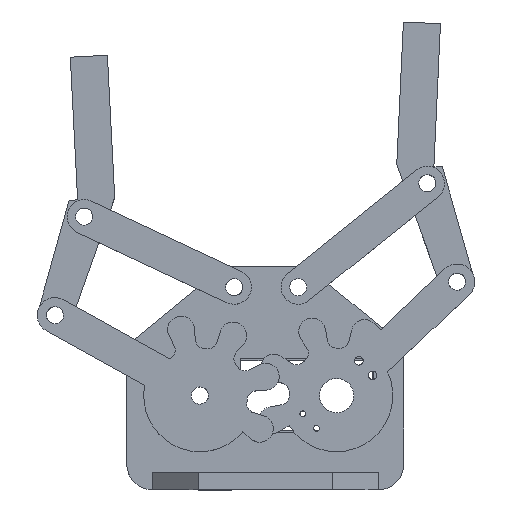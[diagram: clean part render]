
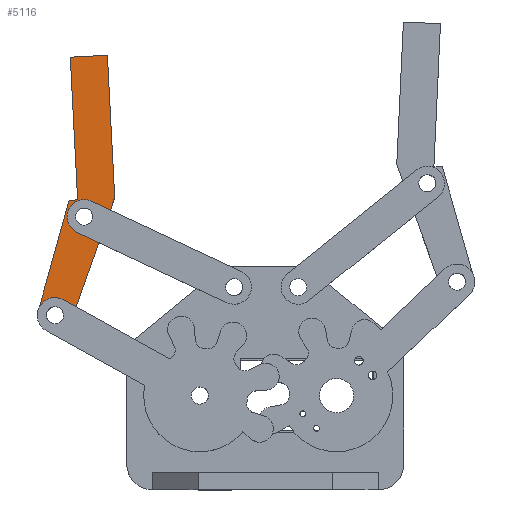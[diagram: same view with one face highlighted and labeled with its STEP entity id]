
A CAD part, top view. The second image highlights one B-rep face of the part: STEP entity #5116.
In plain terms, the highlighted planar face has unit normal (0, 0, 1).
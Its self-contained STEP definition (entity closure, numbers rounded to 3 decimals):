
#32 = LINE ( 'NONE', #620, #3867 ) ;
#128 = DIRECTION ( 'NONE',  ( 0., 0., 1. ) ) ;
#174 = ORIENTED_EDGE ( 'NONE', *, *, #2690, .F. ) ;
#373 = EDGE_LOOP ( 'NONE', ( #3273, #3545 ) ) ;
#381 = EDGE_CURVE ( 'NONE', #6417, #4406, #2495, .T. ) ;
#387 = DIRECTION ( 'NONE',  ( 0., 0., 1. ) ) ;
#393 = CARTESIAN_POINT ( 'NONE',  ( 7.25, -1.015, 3. ) ) ;
#443 = VECTOR ( 'NONE', #4506, 1000. ) ;
#552 = AXIS2_PLACEMENT_3D ( 'NONE', #5589, #4599, #6703 ) ;
#620 = CARTESIAN_POINT ( 'NONE',  ( 7.25, 23.985, 3. ) ) ;
#632 = CARTESIAN_POINT ( 'NONE',  ( -1.444, -22.045, 3. ) ) ;
#732 = LINE ( 'NONE', #393, #888 ) ;
#888 = VECTOR ( 'NONE', #6997, 1000. ) ;
#939 = CARTESIAN_POINT ( 'NONE',  ( 1.75, -4.015, 3. ) ) ;
#1000 = DIRECTION ( 'NONE',  ( 1., 0., 0. ) ) ;
#1161 = CARTESIAN_POINT ( 'NONE',  ( 7.25, -1.015, 3. ) ) ;
#1363 = CIRCLE ( 'NONE', #2045, 1.5 ) ;
#1375 = DIRECTION ( 'NONE',  ( -1., 0., 0. ) ) ;
#1381 = AXIS2_PLACEMENT_3D ( 'NONE', #939, #387, #1000 ) ;
#1478 = LINE ( 'NONE', #5695, #5974 ) ;
#1606 = CARTESIAN_POINT ( 'NONE',  ( 0.25, -4.015, 3. ) ) ;
#1674 = DIRECTION ( 'NONE',  ( 0., 0., 1. ) ) ;
#1702 = VECTOR ( 'NONE', #4128, 1000. ) ;
#1707 = EDGE_CURVE ( 'NONE', #2515, #5879, #1363, .T. ) ;
#1746 = PLANE ( 'NONE',  #3359 ) ;
#1783 = FACE_BOUND ( 'NONE', #373, .T. ) ;
#1847 = EDGE_CURVE ( 'NONE', #4552, #3587, #1478, .T. ) ;
#1988 = DIRECTION ( 'NONE',  ( 1., 0., 0. ) ) ;
#2045 = AXIS2_PLACEMENT_3D ( 'NONE', #3893, #128, #6213 ) ;
#2109 = CARTESIAN_POINT ( 'NONE',  ( -7.119, -20.107, 3. ) ) ;
#2268 = CARTESIAN_POINT ( 'NONE',  ( -7.25, -20.985, 3. ) ) ;
#2274 = EDGE_CURVE ( 'NONE', #5879, #2515, #5397, .T. ) ;
#2292 = EDGE_LOOP ( 'NONE', ( #6174, #3107, #4357, #6825, #6364, #3271, #2644, #3577 ) ) ;
#2495 = CIRCLE ( 'NONE', #5267, 3. ) ;
#2515 = VERTEX_POINT ( 'NONE', #5138 ) ;
#2616 = VERTEX_POINT ( 'NONE', #5923 ) ;
#2644 = ORIENTED_EDGE ( 'NONE', *, *, #381, .T. ) ;
#2690 = EDGE_CURVE ( 'NONE', #4836, #5475, #3558, .T. ) ;
#2830 = FACE_BOUND ( 'NONE', #3481, .T. ) ;
#2872 = AXIS2_PLACEMENT_3D ( 'NONE', #2993, #5200, #6868 ) ;
#2926 = DIRECTION ( 'NONE',  ( 1., 0., 0. ) ) ;
#2993 = CARTESIAN_POINT ( 'NONE',  ( 1.75, -4.015, 3. ) ) ;
#3002 = EDGE_CURVE ( 'NONE', #5475, #4836, #5761, .T. ) ;
#3048 = EDGE_CURVE ( 'NONE', #6772, #4422, #5620, .T. ) ;
#3063 = CARTESIAN_POINT ( 'NONE',  ( -4.25, -20.985, 3. ) ) ;
#3107 = ORIENTED_EDGE ( 'NONE', *, *, #5751, .T. ) ;
#3157 = AXIS2_PLACEMENT_3D ( 'NONE', #5134, #6769, #2926 ) ;
#3271 = ORIENTED_EDGE ( 'NONE', *, *, #7041, .T. ) ;
#3273 = ORIENTED_EDGE ( 'NONE', *, *, #1707, .F. ) ;
#3359 = AXIS2_PLACEMENT_3D ( 'NONE', #4392, #1674, #6751 ) ;
#3385 = LINE ( 'NONE', #6814, #4211 ) ;
#3481 = EDGE_LOOP ( 'NONE', ( #6847, #174 ) ) ;
#3545 = ORIENTED_EDGE ( 'NONE', *, *, #2274, .F. ) ;
#3558 = CIRCLE ( 'NONE', #1381, 1.5 ) ;
#3577 = ORIENTED_EDGE ( 'NONE', *, *, #4494, .T. ) ;
#3587 = VERTEX_POINT ( 'NONE', #6395 ) ;
#3867 = VECTOR ( 'NONE', #6045, 1000. ) ;
#3893 = CARTESIAN_POINT ( 'NONE',  ( -4.25, -20.985, 3. ) ) ;
#4128 = DIRECTION ( 'NONE',  ( -0.316, -0.949, 0. ) ) ;
#4198 = CARTESIAN_POINT ( 'NONE',  ( 7.25, 23.985, 3. ) ) ;
#4211 = VECTOR ( 'NONE', #5557, 1000. ) ;
#4333 = CARTESIAN_POINT ( 'NONE',  ( -2.75, -20.985, 3. ) ) ;
#4357 = ORIENTED_EDGE ( 'NONE', *, *, #5590, .T. ) ;
#4392 = CARTESIAN_POINT ( 'NONE',  ( -4.25, -20.985, 3. ) ) ;
#4406 = VERTEX_POINT ( 'NONE', #2268 ) ;
#4422 = VERTEX_POINT ( 'NONE', #1161 ) ;
#4494 = EDGE_CURVE ( 'NONE', #4406, #6772, #6047, .T. ) ;
#4506 = DIRECTION ( 'NONE',  ( 0.382, 0.924, 0. ) ) ;
#4509 = EDGE_CURVE ( 'NONE', #2616, #4552, #3385, .T. ) ;
#4552 = VERTEX_POINT ( 'NONE', #5853 ) ;
#4556 = VERTEX_POINT ( 'NONE', #4198 ) ;
#4599 = DIRECTION ( 'NONE',  ( 0., 0., 1. ) ) ;
#4779 = CARTESIAN_POINT ( 'NONE',  ( -7.119, -20.107, 3. ) ) ;
#4836 = VERTEX_POINT ( 'NONE', #6835 ) ;
#5116 = ADVANCED_FACE ( 'NONE', ( #1783, #5538, #2830 ), #1746, .T. ) ;
#5134 = CARTESIAN_POINT ( 'NONE',  ( -4.25, -20.985, 3. ) ) ;
#5138 = CARTESIAN_POINT ( 'NONE',  ( -5.75, -20.985, 3. ) ) ;
#5200 = DIRECTION ( 'NONE',  ( 0., 0., 1. ) ) ;
#5267 = AXIS2_PLACEMENT_3D ( 'NONE', #3063, #5704, #1988 ) ;
#5397 = CIRCLE ( 'NONE', #552, 1.5 ) ;
#5475 = VERTEX_POINT ( 'NONE', #1606 ) ;
#5538 = FACE_OUTER_BOUND ( 'NONE', #2292, .T. ) ;
#5557 = DIRECTION ( 'NONE',  ( 0., -1., 0. ) ) ;
#5589 = CARTESIAN_POINT ( 'NONE',  ( -4.25, -20.985, 3. ) ) ;
#5590 = EDGE_CURVE ( 'NONE', #4556, #2616, #32, .T. ) ;
#5620 = LINE ( 'NONE', #632, #443 ) ;
#5695 = CARTESIAN_POINT ( 'NONE',  ( 0.75, -1.015, 3. ) ) ;
#5704 = DIRECTION ( 'NONE',  ( 0., 0., 1. ) ) ;
#5751 = EDGE_CURVE ( 'NONE', #4422, #4556, #732, .T. ) ;
#5761 = CIRCLE ( 'NONE', #2872, 1.5 ) ;
#5853 = CARTESIAN_POINT ( 'NONE',  ( 0.75, -1.015, 3. ) ) ;
#5879 = VERTEX_POINT ( 'NONE', #4333 ) ;
#5923 = CARTESIAN_POINT ( 'NONE',  ( 0.75, 23.985, 3. ) ) ;
#5974 = VECTOR ( 'NONE', #1375, 1000. ) ;
#6045 = DIRECTION ( 'NONE',  ( -1., 0., 0. ) ) ;
#6047 = CIRCLE ( 'NONE', #3157, 3. ) ;
#6174 = ORIENTED_EDGE ( 'NONE', *, *, #3048, .T. ) ;
#6213 = DIRECTION ( 'NONE',  ( 1., 0., 0. ) ) ;
#6364 = ORIENTED_EDGE ( 'NONE', *, *, #1847, .T. ) ;
#6395 = CARTESIAN_POINT ( 'NONE',  ( -0.75, -1.015, 3. ) ) ;
#6417 = VERTEX_POINT ( 'NONE', #2109 ) ;
#6515 = CARTESIAN_POINT ( 'NONE',  ( -1.444, -22.045, 3. ) ) ;
#6703 = DIRECTION ( 'NONE',  ( 1., 0., 0. ) ) ;
#6751 = DIRECTION ( 'NONE',  ( 1., 0., 0. ) ) ;
#6769 = DIRECTION ( 'NONE',  ( 0., 0., 1. ) ) ;
#6772 = VERTEX_POINT ( 'NONE', #6515 ) ;
#6814 = CARTESIAN_POINT ( 'NONE',  ( 0.75, 23.985, 3. ) ) ;
#6825 = ORIENTED_EDGE ( 'NONE', *, *, #4509, .T. ) ;
#6835 = CARTESIAN_POINT ( 'NONE',  ( 3.25, -4.015, 3. ) ) ;
#6847 = ORIENTED_EDGE ( 'NONE', *, *, #3002, .F. ) ;
#6868 = DIRECTION ( 'NONE',  ( 1., 0., 0. ) ) ;
#6882 = LINE ( 'NONE', #4779, #1702 ) ;
#6997 = DIRECTION ( 'NONE',  ( 0., 1., 0. ) ) ;
#7041 = EDGE_CURVE ( 'NONE', #3587, #6417, #6882, .T. ) ;
